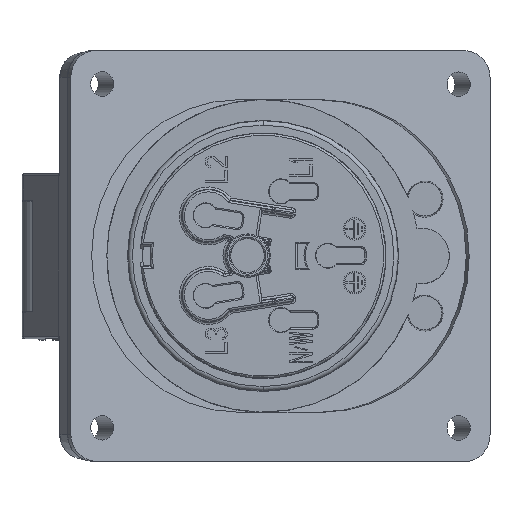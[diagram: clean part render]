
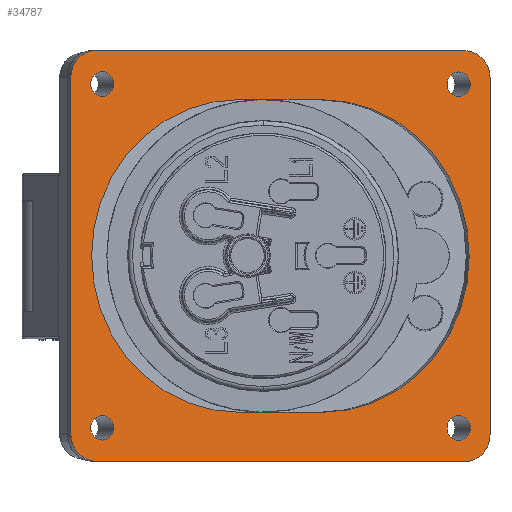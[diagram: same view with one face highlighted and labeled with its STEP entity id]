
A CAD part, top view. The second image highlights one B-rep face of the part: STEP entity #34787.
In plain terms, the highlighted planar face has unit normal (0.342, 0, 0.94).
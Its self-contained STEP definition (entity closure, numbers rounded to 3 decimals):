
#510=CARTESIAN_POINT('',(45.178,40.,23.335));
#511=DIRECTION('',(0.342,0.,0.94));
#512=DIRECTION('',(0.94,0.,-0.342));
#513=AXIS2_PLACEMENT_3D('',#510,#511,#512);
#518=DIRECTION('',(0.,1.,0.));
#519=VECTOR('',#518,80.);
#520=CARTESIAN_POINT('',(50.817,-40.,21.283));
#521=LINE('5026',#520,#519);
#525=CARTESIAN_POINT('',(45.178,-40.,23.335));
#526=DIRECTION('',(0.342,0.,0.94));
#527=DIRECTION('',(0.,-1.,0.));
#528=AXIS2_PLACEMENT_3D('',#525,#526,#527);
#533=DIRECTION('',(0.94,0.,-0.342));
#534=VECTOR('',#533,87.9);
#535=CARTESIAN_POINT('',(-37.42,-46.,53.398));
#536=LINE('5024',#535,#534);
#540=CARTESIAN_POINT('',(-37.42,-40.,53.398));
#541=DIRECTION('',(0.342,0.,0.94));
#542=DIRECTION('',(-0.94,0.,0.342));
#543=AXIS2_PLACEMENT_3D('',#540,#541,#542);
#548=DIRECTION('',(0.,-1.,0.));
#549=VECTOR('',#548,80.);
#550=CARTESIAN_POINT('',(-43.059,40.,55.45));
#551=LINE('5022',#550,#549);
#555=CARTESIAN_POINT('',(-37.42,40.,53.398));
#556=DIRECTION('',(0.342,0.,0.94));
#557=DIRECTION('',(0.,1.,0.));
#558=AXIS2_PLACEMENT_3D('',#555,#556,#557);
#563=DIRECTION('',(-0.94,0.,0.342));
#564=VECTOR('',#563,87.9);
#565=CARTESIAN_POINT('',(45.178,46.,23.335));
#566=LINE('5020',#565,#564);
#570=CARTESIAN_POINT('',(43.816,38.5,23.831));
#571=DIRECTION('',(-0.342,0.,-0.94));
#572=DIRECTION('',(0.,-1.,0.));
#573=AXIS2_PLACEMENT_3D('',#570,#571,#572);
#578=CARTESIAN_POINT('',(43.816,38.5,23.831));
#579=DIRECTION('',(-0.342,0.,-0.94));
#580=DIRECTION('',(0.,1.,0.));
#581=AXIS2_PLACEMENT_3D('',#578,#579,#580);
#586=CARTESIAN_POINT('',(43.816,-38.5,23.831));
#587=DIRECTION('',(-0.342,0.,-0.94));
#588=DIRECTION('',(0.,-1.,0.));
#589=AXIS2_PLACEMENT_3D('',#586,#587,#588);
#594=CARTESIAN_POINT('',(43.816,-38.5,23.831));
#595=DIRECTION('',(-0.342,0.,-0.94));
#596=DIRECTION('',(0.,1.,0.));
#597=AXIS2_PLACEMENT_3D('',#594,#595,#596);
#602=CARTESIAN_POINT('',(-36.058,-38.5,52.902));
#603=DIRECTION('',(-0.342,0.,-0.94));
#604=DIRECTION('',(0.,-1.,0.));
#605=AXIS2_PLACEMENT_3D('',#602,#603,#604);
#610=CARTESIAN_POINT('',(-36.058,-38.5,52.902));
#611=DIRECTION('',(-0.342,0.,-0.94));
#612=DIRECTION('',(0.,1.,0.));
#613=AXIS2_PLACEMENT_3D('',#610,#611,#612);
#618=CARTESIAN_POINT('',(-36.058,38.5,52.902));
#619=DIRECTION('',(-0.342,0.,-0.94));
#620=DIRECTION('',(0.,-1.,0.));
#621=AXIS2_PLACEMENT_3D('',#618,#619,#620);
#626=CARTESIAN_POINT('',(-36.058,38.5,52.902));
#627=DIRECTION('',(-0.342,0.,-0.94));
#628=DIRECTION('',(0.,1.,0.));
#629=AXIS2_PLACEMENT_3D('',#626,#627,#628);
#634=CARTESIAN_POINT('',(13.276,0.,34.946));
#635=DIRECTION('',(-0.342,0.,-0.94));
#636=DIRECTION('',(0.,1.,0.));
#637=AXIS2_PLACEMENT_3D('',#634,#635,#636);
#642=DIRECTION('',(0.94,0.,-0.342));
#643=VECTOR('',#642,20.);
#644=CARTESIAN_POINT('',(-5.518,35.,41.787));
#645=LINE('5030',#644,#643);
#649=CARTESIAN_POINT('',(-5.518,0.,41.787));
#650=DIRECTION('',(-0.342,0.,-0.94));
#651=DIRECTION('',(0.,-1.,0.));
#652=AXIS2_PLACEMENT_3D('',#649,#650,#651);
#657=DIRECTION('',(-0.94,0.,0.342));
#658=VECTOR('',#657,20.);
#659=CARTESIAN_POINT('',(13.276,-35.,34.946));
#660=LINE('5028',#659,#658);
#34048=CARTESIAN_POINT('',(43.816,35.75,23.831));
#34049=CARTESIAN_POINT('',(43.816,41.25,23.831));
#34050=VERTEX_POINT('',#34048);
#34051=VERTEX_POINT('',#34049);
#34052=CARTESIAN_POINT('',(43.816,-41.25,23.831));
#34053=CARTESIAN_POINT('',(43.816,-35.75,23.831));
#34054=VERTEX_POINT('',#34052);
#34055=VERTEX_POINT('',#34053);
#34056=CARTESIAN_POINT('',(-36.058,-41.25,52.902));
#34057=CARTESIAN_POINT('',(-36.058,-35.75,52.902));
#34058=VERTEX_POINT('',#34056);
#34059=VERTEX_POINT('',#34057);
#34060=CARTESIAN_POINT('',(-36.058,35.75,52.902));
#34061=CARTESIAN_POINT('',(-36.058,41.25,52.902));
#34062=VERTEX_POINT('',#34060);
#34063=VERTEX_POINT('',#34061);
#34064=CARTESIAN_POINT('',(50.817,40.,21.283));
#34065=CARTESIAN_POINT('',(45.178,46.,23.335));
#34066=VERTEX_POINT('',#34064);
#34067=VERTEX_POINT('',#34065);
#34068=CARTESIAN_POINT('',(-37.42,46.,53.398));
#34069=VERTEX_POINT('',#34068);
#34070=CARTESIAN_POINT('',(-43.059,40.,55.45));
#34071=VERTEX_POINT('',#34070);
#34072=CARTESIAN_POINT('',(-43.059,-40.,55.45));
#34073=VERTEX_POINT('',#34072);
#34074=CARTESIAN_POINT('',(-37.42,-46.,53.398));
#34075=VERTEX_POINT('',#34074);
#34076=CARTESIAN_POINT('',(45.178,-46.,23.335));
#34077=VERTEX_POINT('',#34076);
#34078=CARTESIAN_POINT('',(50.817,-40.,21.283));
#34079=VERTEX_POINT('',#34078);
#34080=CARTESIAN_POINT('',(13.276,35.,34.946));
#34081=CARTESIAN_POINT('',(13.276,-35.,34.946));
#34082=VERTEX_POINT('',#34080);
#34083=VERTEX_POINT('',#34081);
#34084=CARTESIAN_POINT('',(-5.518,-35.,41.787));
#34085=VERTEX_POINT('',#34084);
#34086=CARTESIAN_POINT('',(-5.518,35.,41.787));
#34087=VERTEX_POINT('',#34086);
#34736=CARTESIAN_POINT('',(3.879,0.,38.367));
#34737=DIRECTION('',(0.342,0.,0.94));
#34738=DIRECTION('',(0.,-1.,0.));
#34739=AXIS2_PLACEMENT_3D('',#34736,#34737,#34738);
#34740=PLANE('1566',#34739);
#34741=ORIENTED_EDGE('5019',*,*,#34498,.F.);
#34742=ORIENTED_EDGE('5026',*,*,#34527,.F.);
#34743=ORIENTED_EDGE('5025',*,*,#34554,.F.);
#34745=ORIENTED_EDGE('5024',*,*,#34744,.F.);
#34746=ORIENTED_EDGE('5023',*,*,#34613,.F.);
#34748=ORIENTED_EDGE('5022',*,*,#34747,.F.);
#34749=ORIENTED_EDGE('5021',*,*,#34661,.F.);
#34750=ORIENTED_EDGE('5020',*,*,#34718,.F.);
#34751=EDGE_LOOP('1566',(#34741,#34742,#34743,#34745,#34746,#34748,#34749,
#34750));
#34752=FACE_OUTER_BOUND('1566',#34751,.F.);
#34754=ORIENTED_EDGE('5011',*,*,#34753,.F.);
#34756=ORIENTED_EDGE('5012',*,*,#34755,.F.);
#34757=EDGE_LOOP('1566',(#34754,#34756));
#34758=FACE_BOUND('1566',#34757,.F.);
#34760=ORIENTED_EDGE('5013',*,*,#34759,.F.);
#34762=ORIENTED_EDGE('5014',*,*,#34761,.F.);
#34763=EDGE_LOOP('1566',(#34760,#34762));
#34764=FACE_BOUND('1566',#34763,.F.);
#34766=ORIENTED_EDGE('5015',*,*,#34765,.F.);
#34768=ORIENTED_EDGE('5016',*,*,#34767,.F.);
#34769=EDGE_LOOP('1566',(#34766,#34768));
#34770=FACE_BOUND('1566',#34769,.F.);
#34772=ORIENTED_EDGE('5017',*,*,#34771,.F.);
#34774=ORIENTED_EDGE('5018',*,*,#34773,.F.);
#34775=EDGE_LOOP('1566',(#34772,#34774));
#34776=FACE_BOUND('1566',#34775,.F.);
#34778=ORIENTED_EDGE('5027',*,*,#34777,.F.);
#34780=ORIENTED_EDGE('5030',*,*,#34779,.F.);
#34782=ORIENTED_EDGE('5029',*,*,#34781,.F.);
#34784=ORIENTED_EDGE('5028',*,*,#34783,.F.);
#34785=EDGE_LOOP('1566',(#34778,#34780,#34782,#34784));
#34786=FACE_BOUND('1566',#34785,.F.);
#514=CIRCLE('5019',#513,6.);
#529=CIRCLE('5025',#528,6.);
#544=CIRCLE('5023',#543,6.);
#559=CIRCLE('5021',#558,6.);
#574=CIRCLE('5011',#573,2.75);
#582=CIRCLE('5012',#581,2.75);
#590=CIRCLE('5013',#589,2.75);
#598=CIRCLE('5014',#597,2.75);
#606=CIRCLE('5015',#605,2.75);
#614=CIRCLE('5016',#613,2.75);
#622=CIRCLE('5017',#621,2.75);
#630=CIRCLE('5018',#629,2.75);
#638=CIRCLE('5027',#637,35.);
#653=CIRCLE('5029',#652,35.);
#34498=EDGE_CURVE('5019',#34066,#34067,#514,.T.);
#34527=EDGE_CURVE('5026',#34079,#34066,#521,.T.);
#34554=EDGE_CURVE('5025',#34077,#34079,#529,.T.);
#34613=EDGE_CURVE('5023',#34073,#34075,#544,.T.);
#34661=EDGE_CURVE('5021',#34069,#34071,#559,.T.);
#34718=EDGE_CURVE('5020',#34067,#34069,#566,.T.);
#34744=EDGE_CURVE('5024',#34075,#34077,#536,.T.);
#34747=EDGE_CURVE('5022',#34071,#34073,#551,.T.);
#34753=EDGE_CURVE('5011',#34050,#34051,#574,.T.);
#34755=EDGE_CURVE('5012',#34051,#34050,#582,.T.);
#34759=EDGE_CURVE('5013',#34054,#34055,#590,.T.);
#34761=EDGE_CURVE('5014',#34055,#34054,#598,.T.);
#34765=EDGE_CURVE('5015',#34058,#34059,#606,.T.);
#34767=EDGE_CURVE('5016',#34059,#34058,#614,.T.);
#34771=EDGE_CURVE('5017',#34062,#34063,#622,.T.);
#34773=EDGE_CURVE('5018',#34063,#34062,#630,.T.);
#34777=EDGE_CURVE('5027',#34082,#34083,#638,.T.);
#34779=EDGE_CURVE('5030',#34087,#34082,#645,.T.);
#34781=EDGE_CURVE('5029',#34085,#34087,#653,.T.);
#34783=EDGE_CURVE('5028',#34083,#34085,#660,.T.);
#34787=ADVANCED_FACE('1566',(#34752,#34758,#34764,#34770,#34776,#34786),#34740,
.T.);
